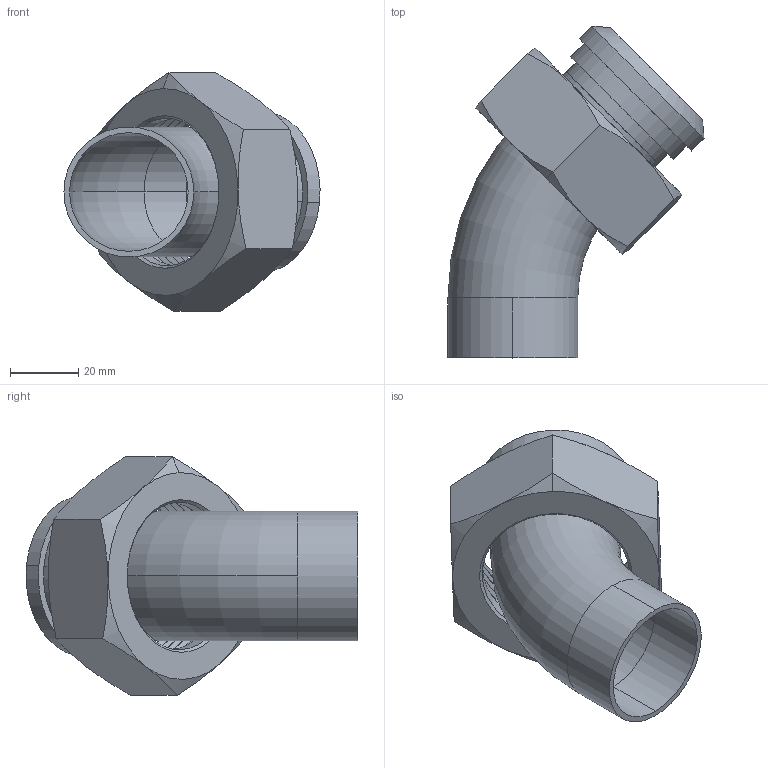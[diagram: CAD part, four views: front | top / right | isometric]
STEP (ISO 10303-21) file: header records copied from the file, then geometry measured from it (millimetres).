
FILE_DESCRIPTION (( 'STEP AP203' ), '1' );
FILE_NAME ('E2KP1.5.STEP', '2018-05-02T16:27:00', ( 'vneprd' ), ( 'Microsoft' ), 'SwSTEP 2.0', 'SolidWorks 2014', '' );
FILE_SCHEMA (( 'CONFIG_CONTROL_DESIGN' ));
Length unit declared in the file: inch
Products named in the file (4): 14PR1.5; E2KP1.5; 13H1.5; E2KS1.5
Assembly tree (3 placements, depth 2):
  E2KP1.5
    E2KS1.5
    14PR1.5
    13H1.5
Bounding box: 75.15 x 97.38 x 70.07 mm (x, y, z)
Volume: 56678.2 mm3; surface area: 38191.3 mm2
Topology: 3 solids, 3 shells, 74 faces, 169 edges, 104 vertices
Faces by surface type: cylinder 28, cone 22, plane 17, torus 4, bspline 3
Entity records: 3577 total; most frequent: CARTESIAN_POINT 1542, DIRECTION 349, ORIENTED_EDGE 338, EDGE_CURVE 169, AXIS2_PLACEMENT_3D 148, VERTEX_POINT 104, EDGE_LOOP 83, FACE_OUTER_BOUND 74
